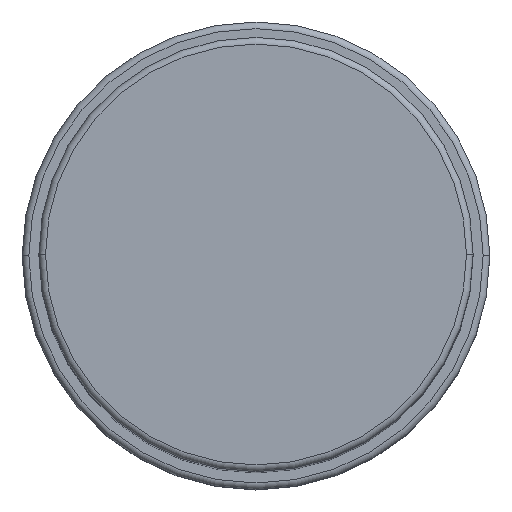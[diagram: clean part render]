
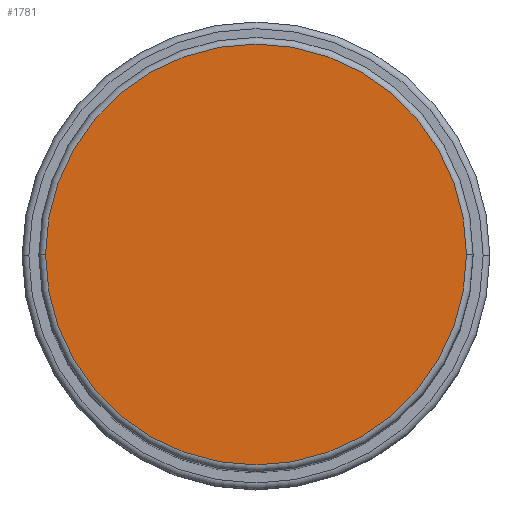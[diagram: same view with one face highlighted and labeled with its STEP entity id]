
A CAD part, top view. The second image highlights one B-rep face of the part: STEP entity #1781.
In plain terms, the highlighted planar face has unit normal (0, 0, 1).
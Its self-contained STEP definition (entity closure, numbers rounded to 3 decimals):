
#34 = CIRCLE ( 'NONE', #1364, 31.5 ) ;
#117 = DIRECTION ( 'NONE',  ( 0., 0., 1. ) ) ;
#133 = AXIS2_PLACEMENT_3D ( 'NONE', #868, #117, #1806 ) ;
#165 = PLANE ( 'NONE',  #1617 ) ;
#226 = ORIENTED_EDGE ( 'NONE', *, *, #1135, .T. ) ;
#257 = CARTESIAN_POINT ( 'NONE',  ( -31.5, 0., 128. ) ) ;
#405 = DIRECTION ( 'NONE',  ( 1., 0., 0. ) ) ;
#605 = FACE_OUTER_BOUND ( 'NONE', #1349, .T. ) ;
#607 = DIRECTION ( 'NONE',  ( 0., 0., 1. ) ) ;
#706 = CARTESIAN_POINT ( 'NONE',  ( 0., 0., 128. ) ) ;
#789 = EDGE_CURVE ( 'NONE', #971, #801, #858, .T. ) ;
#801 = VERTEX_POINT ( 'NONE', #257 ) ;
#838 = DIRECTION ( 'NONE',  ( 0., 0., 1. ) ) ;
#858 = CIRCLE ( 'NONE', #133, 31.5 ) ;
#868 = CARTESIAN_POINT ( 'NONE',  ( 0., 0., 128. ) ) ;
#917 = DIRECTION ( 'NONE',  ( 1., 0., 0. ) ) ;
#971 = VERTEX_POINT ( 'NONE', #1518 ) ;
#1099 = CARTESIAN_POINT ( 'NONE',  ( 0., 0., 128. ) ) ;
#1135 = EDGE_CURVE ( 'NONE', #801, #971, #34, .T. ) ;
#1170 = ORIENTED_EDGE ( 'NONE', *, *, #789, .T. ) ;
#1349 = EDGE_LOOP ( 'NONE', ( #1170, #226 ) ) ;
#1364 = AXIS2_PLACEMENT_3D ( 'NONE', #706, #838, #405 ) ;
#1518 = CARTESIAN_POINT ( 'NONE',  ( 31.5, 0., 128. ) ) ;
#1617 = AXIS2_PLACEMENT_3D ( 'NONE', #1099, #607, #917 ) ;
#1781 = ADVANCED_FACE ( 'NONE', ( #605 ), #165, .T. ) ;
#1806 = DIRECTION ( 'NONE',  ( 1., 0., 0. ) ) ;
